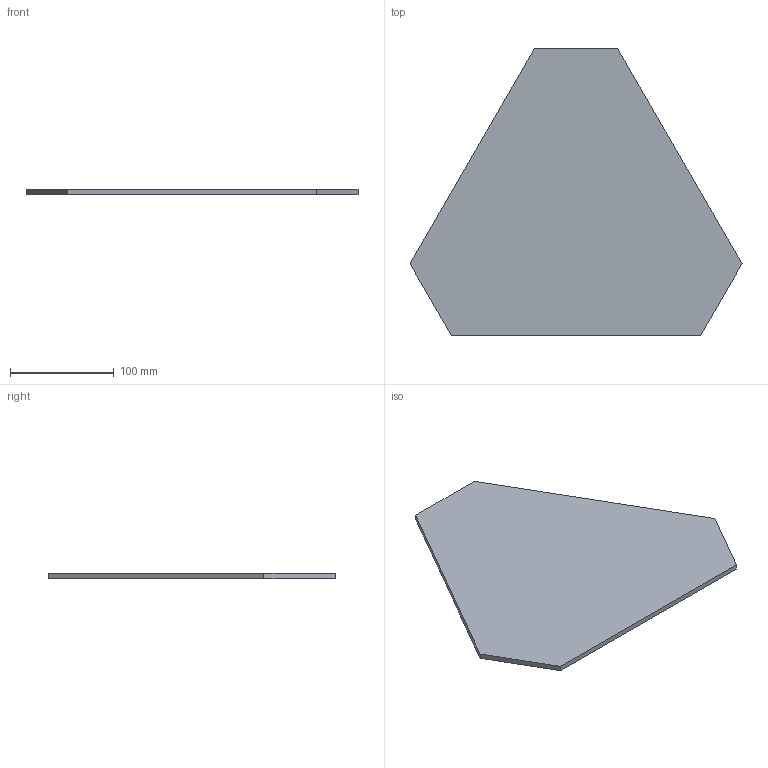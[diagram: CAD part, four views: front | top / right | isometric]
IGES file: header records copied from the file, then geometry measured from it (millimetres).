
Start section: SolidWorks IGES file using analytic representation for surfaces
Global section: file name: C:\Users\gorka\OneDrive\Desktop\SP STL\bottom plate_iges.IGS; native system: SolidWorks 2021; preprocessor: SolidWorks 2021; author: gorka; date: 220628.194517; units: millimetre
Bounding box: 320 x 277.13 x 5 mm (x, y, z)
Surface area: 126736.4 mm2 (no closed solid volume)
Topology: 0 solids, 0 shells, 8 faces, 36 edges, 36 vertices
Faces by surface type: bspline 8
